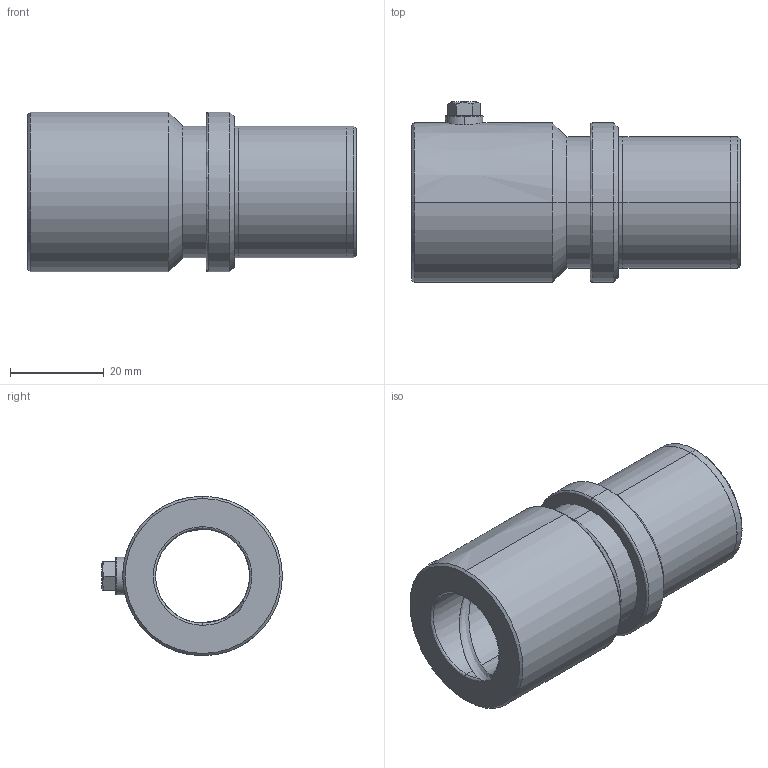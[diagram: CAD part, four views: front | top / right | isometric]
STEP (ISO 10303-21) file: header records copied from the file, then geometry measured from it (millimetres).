
FILE_DESCRIPTION( ( 'STEP AP203' ), '1' );
FILE_NAME( 'D:/Delta 3 D/D23/D23 - 20x26.step', '2002-12-31T22:32:44', ( ' ' ), ( ' ' ), 'XStep 1.0', ' ', ' ' );
FILE_SCHEMA( ( 'CONFIG_CONTROL_DESIGN' ) );
Length unit declared in the file: metre
Products named in the file (1): 1
Bounding box: 70 x 38.5 x 34 mm (x, y, z)
Volume: 31924.4 mm3; surface area: 12955.7 mm2
Topology: 1 solids, 1 shells, 67 faces, 151 edges, 92 vertices
Faces by surface type: revolution 36, bspline 31
Entity records: 3013 total; most frequent: CARTESIAN_POINT 1670, ORIENTED_EDGE 298, DIRECTION 193, EDGE_CURVE 149, VERTEX_POINT 92, EDGE_LOOP 77, ADVANCED_FACE 67, FACE_OUTER_BOUND 67
